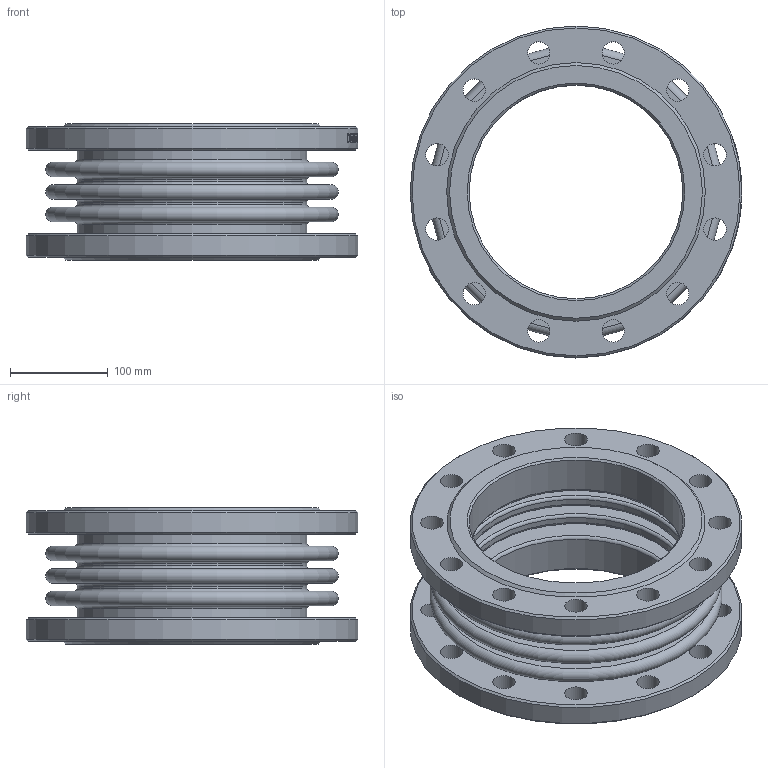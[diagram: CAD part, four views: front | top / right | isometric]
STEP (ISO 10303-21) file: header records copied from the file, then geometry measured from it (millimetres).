
FILE_DESCRIPTION(/* description */ ('D140-02119','CAx-IF Rec.Pracs.---Representation and Presentation of Product Manufacturing Information (PMI)---4.0---2014-10-13'),/* implementation_level */ '2;1');
FILE_NAME(/* name */ '',/* time_stamp */ '2026-04-14T00:04:14+03:00',/* author */ ('DN.RU'),/* organization */ ('DN.RU'),/* preprocessor_version */ 'ST-DEVELOPER v20',/* originating_system */ 'Autodesk Inventor 2025',/* authorisation */ '');
FILE_SCHEMA (('AP242_MANAGED_MODEL_BASED_3D_ENGINEERING_MIM_LF { 1 0 10303 442 1 1 4 }'));
Length unit declared in the file: millimetre
Products named in the file (1): CB-3234-F
Bounding box: 340 x 340 x 140 mm (x, y, z)
Volume: 2865520.2 mm3; surface area: 783458.7 mm2
Topology: 1 solids, 1 shells, 286 faces, 733 edges, 488 vertices
Faces by surface type: plane 109, bspline 94, cylinder 57, torus 18, cone 8
Full cylindrical faces by diameter (mm): 23 x24, 219 x2, 231 x2, 235 x4, 243 x2, 340 x2
Entity records: 12299 total; most frequent: CARTESIAN_POINT 4968, ORIENTED_EDGE 1466, DIRECTION 1249, EDGE_CURVE 733, VERTEX_POINT 488, AXIS2_PLACEMENT_3D 474, EDGE_LOOP 375, STYLED_ITEM 364
